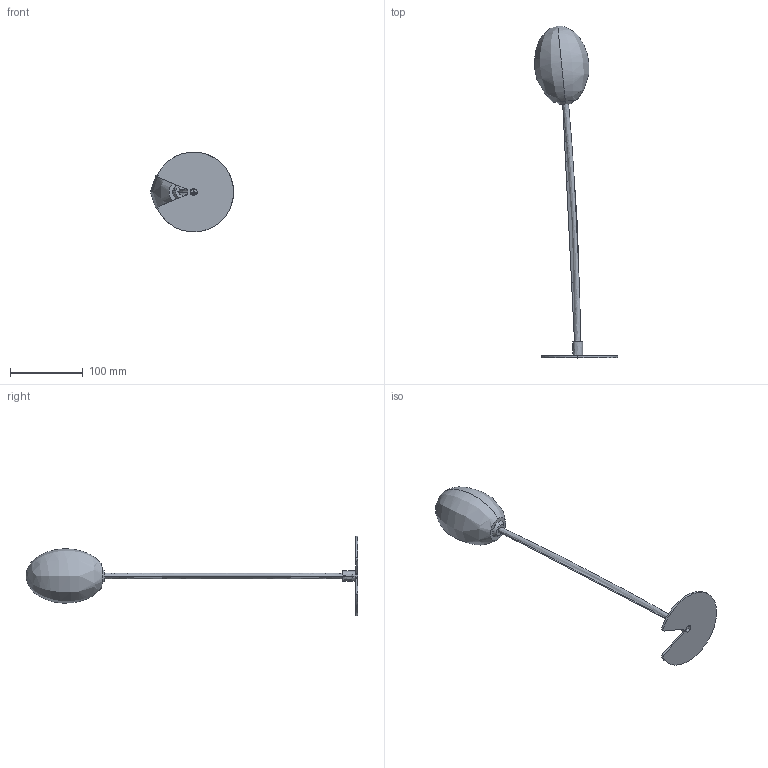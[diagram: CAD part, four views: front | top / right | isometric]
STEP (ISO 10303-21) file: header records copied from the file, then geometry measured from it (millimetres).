
FILE_DESCRIPTION(/* description */ (''),/* implementation_level */ '2;1');
FILE_NAME(/* name */ 'C112_',/* time_stamp */ '2024-07-03T15:15:13+02:00',/* author */ (''),/* organization */ (''),/* preprocessor_version */ 'ST-DEVELOPER v16.5',/* originating_system */ '',/* authorisation */ '');
FILE_SCHEMA (('AUTOMOTIVE_DESIGN'));
Length unit declared in the file: millimetre
Products named in the file (1): Document
Bounding box: 114.42 x 457.43 x 110 mm (x, y, z)
Volume: 106912 mm3; surface area: 78514.7 mm2
Topology: 7 solids, 7 shells, 135 faces, 339 edges, 214 vertices
Faces by surface type: bspline 89, plane 46
Entity records: 8781 total; most frequent: CARTESIAN_POINT 6754, ORIENTED_EDGE 666, EDGE_CURVE 333, VERTEX_POINT 214, B_SPLINE_CURVE_WITH_KNOTS 192, EDGE_LOOP 151, ADVANCED_FACE 135, FACE_OUTER_BOUND 135
